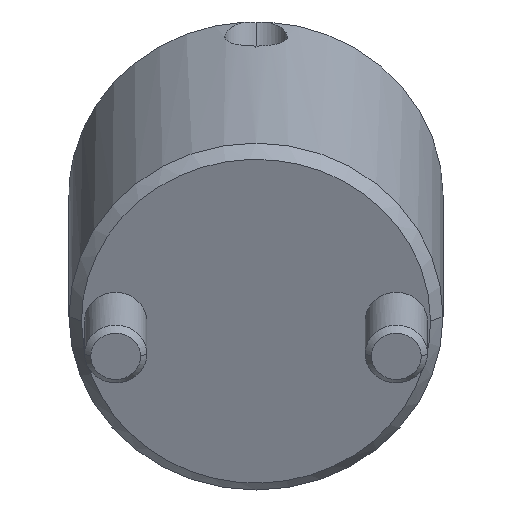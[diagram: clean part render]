
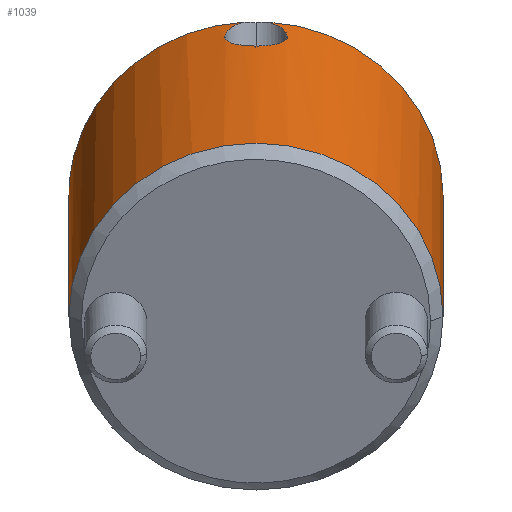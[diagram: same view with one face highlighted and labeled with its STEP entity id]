
A CAD part, front view. The second image highlights one B-rep face of the part: STEP entity #1039.
In plain terms, the highlighted cylindrical face has radius 15 mm (diameter 30 mm), a partial arc.
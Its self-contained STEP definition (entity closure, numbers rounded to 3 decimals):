
#790=CARTESIAN_POINT('Vertex',(0.,15.,1.)) ;
#793=CARTESIAN_POINT('Axis2P3D Location',(0.,0.,1.)) ;
#797=CARTESIAN_POINT('Vertex',(0.,-15.,1.)) ;
#937=CARTESIAN_POINT('Axis2P3D Location',(0.,0.,-1.4)) ;
#943=CARTESIAN_POINT('Control Point',(14.974,-0.881,27.)) ;
#944=CARTESIAN_POINT('Control Point',(14.708,-5.409,27.)) ;
#945=CARTESIAN_POINT('Control Point',(12.734,-9.84,27.)) ;
#946=CARTESIAN_POINT('Control Point',(9.076,-13.29,27.)) ;
#947=CARTESIAN_POINT('Control Point',(4.536,-15.,27.)) ;
#948=CARTESIAN_POINT('Control Point',(0.,-15.,27.)) ;
#949=CARTESIAN_POINT('Vertex',(14.974,-0.881,27.)) ;
#951=CARTESIAN_POINT('Vertex',(0.,-15.,27.)) ;
#954=CARTESIAN_POINT('Line Origine',(0.,-15.,-1.4)) ;
#959=CARTESIAN_POINT('Line Origine',(0.,15.,-1.4)) ;
#963=CARTESIAN_POINT('Vertex',(0.,15.,27.)) ;
#966=CARTESIAN_POINT('Axis2P3D Location',(0.,0.,27.)) ;
#970=CARTESIAN_POINT('Vertex',(14.974,0.881,27.)) ;
#974=CARTESIAN_POINT('Control Point',(14.974,0.881,27.)) ;
#975=CARTESIAN_POINT('Control Point',(14.962,1.094,26.909)) ;
#976=CARTESIAN_POINT('Control Point',(14.946,1.293,26.792)) ;
#977=CARTESIAN_POINT('Control Point',(14.928,1.48,26.65)) ;
#978=CARTESIAN_POINT('Control Point',(14.898,1.76,26.386)) ;
#979=CARTESIAN_POINT('Control Point',(14.868,1.991,26.076)) ;
#980=CARTESIAN_POINT('Control Point',(14.856,2.077,25.943)) ;
#981=CARTESIAN_POINT('Control Point',(14.825,2.291,25.554)) ;
#982=CARTESIAN_POINT('Control Point',(14.8,2.443,25.091)) ;
#983=CARTESIAN_POINT('Control Point',(14.789,2.506,24.767)) ;
#984=CARTESIAN_POINT('Control Point',(14.786,2.526,24.269)) ;
#985=CARTESIAN_POINT('Control Point',(14.801,2.437,23.774)) ;
#986=CARTESIAN_POINT('Control Point',(14.807,2.398,23.62)) ;
#987=CARTESIAN_POINT('Control Point',(14.828,2.27,23.241)) ;
#988=CARTESIAN_POINT('Control Point',(14.856,2.077,22.898)) ;
#989=CARTESIAN_POINT('Control Point',(14.875,1.939,22.708)) ;
#990=CARTESIAN_POINT('Control Point',(14.908,1.679,22.426)) ;
#991=CARTESIAN_POINT('Control Point',(14.938,1.373,22.2)) ;
#992=CARTESIAN_POINT('Control Point',(14.949,1.244,22.119)) ;
#993=CARTESIAN_POINT('Control Point',(14.973,0.932,21.956)) ;
#994=CARTESIAN_POINT('Control Point',(14.99,0.591,21.851)) ;
#995=CARTESIAN_POINT('Control Point',(14.997,0.393,21.809)) ;
#996=CARTESIAN_POINT('Control Point',(15.,0.197,21.791)) ;
#997=CARTESIAN_POINT('Control Point',(15.,0.,21.791)) ;
#998=CARTESIAN_POINT('Vertex',(15.,0.,21.791)) ;
#1002=CARTESIAN_POINT('Control Point',(15.,0.,21.791)) ;
#1003=CARTESIAN_POINT('Control Point',(15.,-0.15,21.791)) ;
#1004=CARTESIAN_POINT('Control Point',(14.998,-0.299,21.802)) ;
#1005=CARTESIAN_POINT('Control Point',(14.994,-0.449,21.825)) ;
#1006=CARTESIAN_POINT('Control Point',(14.983,-0.748,21.895)) ;
#1007=CARTESIAN_POINT('Control Point',(14.965,-1.033,22.009)) ;
#1008=CARTESIAN_POINT('Control Point',(14.955,-1.168,22.077)) ;
#1009=CARTESIAN_POINT('Control Point',(14.933,-1.431,22.234)) ;
#1010=CARTESIAN_POINT('Control Point',(14.908,-1.666,22.43)) ;
#1011=CARTESIAN_POINT('Control Point',(14.895,-1.777,22.537)) ;
#1012=CARTESIAN_POINT('Control Point',(14.869,-1.98,22.769)) ;
#1013=CARTESIAN_POINT('Control Point',(14.846,-2.148,23.031)) ;
#1014=CARTESIAN_POINT('Control Point',(14.835,-2.222,23.168)) ;
#1015=CARTESIAN_POINT('Control Point',(14.815,-2.351,23.46)) ;
#1016=CARTESIAN_POINT('Control Point',(14.801,-2.437,23.771)) ;
#1017=CARTESIAN_POINT('Control Point',(14.796,-2.468,23.929)) ;
#1018=CARTESIAN_POINT('Control Point',(14.787,-2.519,24.344)) ;
#1019=CARTESIAN_POINT('Control Point',(14.791,-2.495,24.752)) ;
#1020=CARTESIAN_POINT('Control Point',(14.798,-2.454,24.994)) ;
#1021=CARTESIAN_POINT('Control Point',(14.816,-2.347,25.392)) ;
#1022=CARTESIAN_POINT('Control Point',(14.84,-2.188,25.741)) ;
#1023=CARTESIAN_POINT('Control Point',(14.851,-2.112,25.883)) ;
#1024=CARTESIAN_POINT('Control Point',(14.883,-1.88,26.252)) ;
#1025=CARTESIAN_POINT('Control Point',(14.917,-1.59,26.562)) ;
#1026=CARTESIAN_POINT('Control Point',(14.94,-1.371,26.745)) ;
#1027=CARTESIAN_POINT('Control Point',(14.959,-1.136,26.891)) ;
#1028=CARTESIAN_POINT('Control Point',(14.974,-0.881,27.)) ;
#794=DIRECTION('Axis2P3D Direction',(0.,0.,1.)) ;
#938=DIRECTION('Axis2P3D Direction',(0.,-0.,1.)) ;
#939=DIRECTION('Axis2P3D XDirection',(0.,-1.,0.)) ;
#955=DIRECTION('Vector Direction',(0.,0.,1.)) ;
#960=DIRECTION('Vector Direction',(0.,0.,1.)) ;
#967=DIRECTION('Axis2P3D Direction',(0.,-0.,1.)) ;
#795=AXIS2_PLACEMENT_3D('Circle Axis2P3D',#793,#794,$) ;
#940=AXIS2_PLACEMENT_3D('Cylinder Axis2P3D',#937,#938,#939) ;
#968=AXIS2_PLACEMENT_3D('Circle Axis2P3D',#966,#967,$) ;
#1031=ORIENTED_EDGE('',*,*,#953,.T.) ;
#1032=ORIENTED_EDGE('',*,*,#958,.T.) ;
#1033=ORIENTED_EDGE('',*,*,#799,.F.) ;
#1034=ORIENTED_EDGE('',*,*,#965,.F.) ;
#1035=ORIENTED_EDGE('',*,*,#972,.T.) ;
#1036=ORIENTED_EDGE('',*,*,#1000,.T.) ;
#1037=ORIENTED_EDGE('',*,*,#1029,.T.) ;
#956=VECTOR('Line Direction',#955,1.) ;
#961=VECTOR('Line Direction',#960,1.) ;
#1039=ADVANCED_FACE('MANIFOLD_SOLID_BREP #1139',(#1038),#941,.T.) ;
#942=B_SPLINE_CURVE_WITH_KNOTS('',5,(#943,#944,#945,#946,#947,#948),.UNSPECIFIED.,.F.,.U.,(6,6),(-11.34,11.34),.UNSPECIFIED.) ;
#973=B_SPLINE_CURVE_WITH_KNOTS('',5,(#974,#975,#976,#977,#978,#979,#980,#981,#982,#983,#984,#985,#986,#987,#988,#989,#990,#991,#992,#993,#994,#995,#996,#997),.UNSPECIFIED.,.F.,.U.,(6,3,3,3,3,3,3,6),(0.,1.902,3.194,5.398,6.442,7.984,8.999,10.334),.UNSPECIFIED.) ;
#1001=B_SPLINE_CURVE_WITH_KNOTS('',5,(#1002,#1003,#1004,#1005,#1006,#1007,#1008,#1009,#1010,#1011,#1012,#1013,#1014,#1015,#1016,#1017,#1018,#1019,#1020,#1021,#1022,#1023,#1024,#1025,#1026,#1027,#1028),.UNSPECIFIED.,.F.,.U.,(6,3,3,3,3,3,3,3,6),(0.,1.024,2.05,3.091,4.127,5.182,6.838,8.081,10.324),.UNSPECIFIED.) ;
#796=CIRCLE('generated circle',#795,15.) ;
#969=CIRCLE('generated circle',#968,15.) ;
#941=CYLINDRICAL_SURFACE('generated cylinder',#940,15.) ;
#799=EDGE_CURVE('',#791,#798,#796,.F.) ;
#953=EDGE_CURVE('',#950,#952,#942,.T.) ;
#958=EDGE_CURVE('',#952,#798,#957,.F.) ;
#965=EDGE_CURVE('',#964,#791,#962,.F.) ;
#972=EDGE_CURVE('',#964,#971,#969,.F.) ;
#1000=EDGE_CURVE('',#971,#999,#973,.T.) ;
#1029=EDGE_CURVE('',#999,#950,#1001,.T.) ;
#1030=EDGE_LOOP('',(#1031,#1032,#1033,#1034,#1035,#1036,#1037)) ;
#1038=FACE_OUTER_BOUND('',#1030,.T.) ;
#957=LINE('Line',#954,#956) ;
#962=LINE('Line',#959,#961) ;
#791=VERTEX_POINT('',#790) ;
#798=VERTEX_POINT('',#797) ;
#950=VERTEX_POINT('',#949) ;
#952=VERTEX_POINT('',#951) ;
#964=VERTEX_POINT('',#963) ;
#971=VERTEX_POINT('',#970) ;
#999=VERTEX_POINT('',#998) ;
